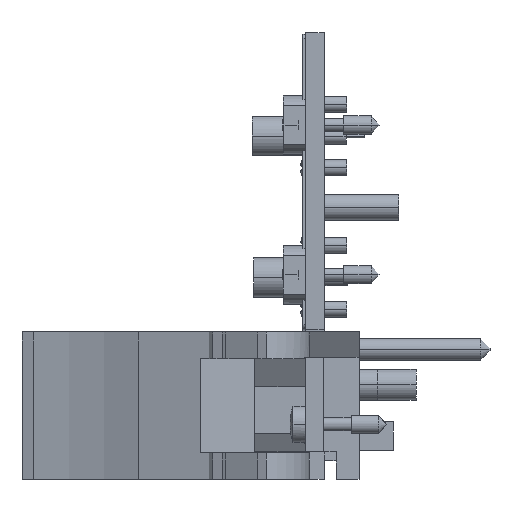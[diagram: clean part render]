
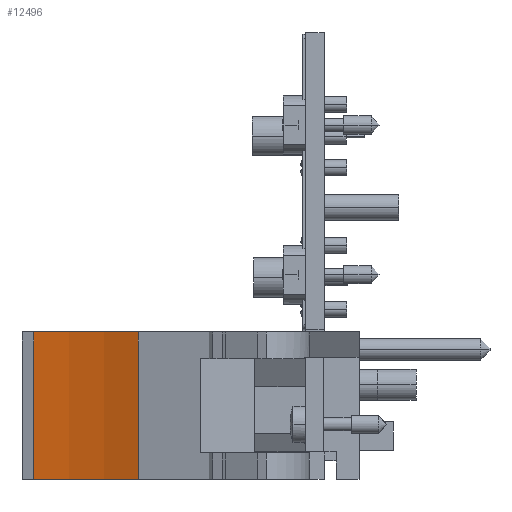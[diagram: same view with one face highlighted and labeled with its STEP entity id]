
A CAD part, front view. The second image highlights one B-rep face of the part: STEP entity #12496.
In plain terms, the highlighted cylindrical face has radius 51.46 mm (diameter 102.919 mm), a partial arc.
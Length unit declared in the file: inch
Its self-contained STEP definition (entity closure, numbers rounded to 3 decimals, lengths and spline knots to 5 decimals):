
#2065=CARTESIAN_POINT('',(-1.97682,-5.95043,0.695));
#2066=DIRECTION('',(0.,0.,1.));
#2067=DIRECTION('',(0.435,0.9,0.));
#2068=AXIS2_PLACEMENT_3D('',#2065,#2066,#2067);
#2410=CARTESIAN_POINT('',(-1.97682,-5.95043,-0.093));
#2411=DIRECTION('',(0.,0.,1.));
#2412=DIRECTION('',(0.435,0.9,0.));
#2413=AXIS2_PLACEMENT_3D('',#2410,#2411,#2412);
#2628=DIRECTION('',(0.,0.,1.));
#2629=VECTOR('',#2628,0.788);
#2630=CARTESIAN_POINT('',(-1.65349,-3.95043,-0.093));
#2631=LINE('',#2630,#2629);
#2636=DIRECTION('',(0.,0.,1.));
#2637=VECTOR('',#2636,0.788);
#2638=CARTESIAN_POINT('',(-1.09552,-4.12619,-0.093));
#2639=LINE('',#2638,#2637);
#7815=CARTESIAN_POINT('',(-1.09552,-4.12619,-0.093));
#7816=CARTESIAN_POINT('',(-1.65349,-3.95043,-0.093));
#7817=VERTEX_POINT('',#7815);
#7818=VERTEX_POINT('',#7816);
#7819=CARTESIAN_POINT('',(-1.09552,-4.12619,0.695));
#7820=CARTESIAN_POINT('',(-1.65349,-3.95043,0.695));
#7821=VERTEX_POINT('',#7819);
#7822=VERTEX_POINT('',#7820);
#12484=CARTESIAN_POINT('',(-1.97682,-5.95043,0.695));
#12485=DIRECTION('',(0.,0.,1.));
#12486=DIRECTION('',(0.,1.,0.));
#12487=AXIS2_PLACEMENT_3D('',#12484,#12485,#12486);
#12488=CYLINDRICAL_SURFACE('',#12487,2.02597);
#12489=ORIENTED_EDGE('',*,*,#12202,.T.);
#12490=ORIENTED_EDGE('',*,*,#12476,.T.);
#12491=ORIENTED_EDGE('',*,*,#11751,.F.);
#12493=ORIENTED_EDGE('',*,*,#12492,.F.);
#12494=EDGE_LOOP('',(#12489,#12490,#12491,#12493));
#12495=FACE_OUTER_BOUND('',#12494,.F.);
#12496=ADVANCED_FACE('',(#12495),#12488,.F.);
#2069=CIRCLE('',#2068,2.02597);
#2414=CIRCLE('',#2413,2.02597);
#11751=EDGE_CURVE('',#7821,#7822,#2069,.T.);
#12202=EDGE_CURVE('',#7817,#7818,#2414,.T.);
#12476=EDGE_CURVE('',#7818,#7822,#2631,.T.);
#12492=EDGE_CURVE('',#7817,#7821,#2639,.T.);
